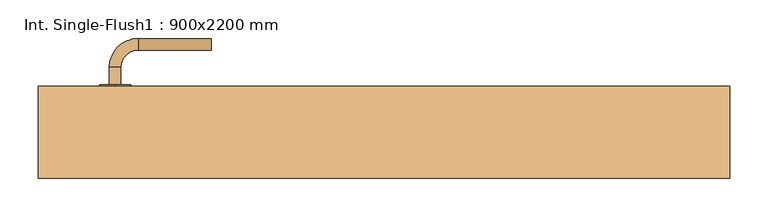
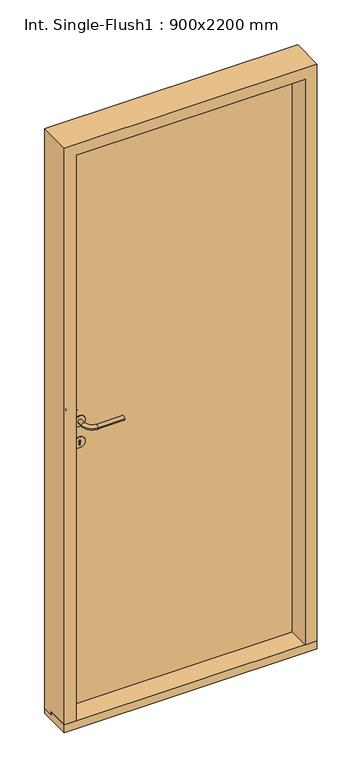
"""IFC4 building model written with IfcOpenShell, lengths in millimetres: door geometry, Int. Single-Flush1 : 900x2200 mm."""

from ifc_helpers import new_model, si_unit, point, frame, frame_2d, origin, place, context, project, spatial, polyline, circle_curve, ellipse_curve, trimmed, segment, composite_curve, outline, extrude, faceted_brep, source, transform, mapped, element, save
from ifc_brep_helpers import plane_surface, cylinder_surface, revolved_surface, advanced_brep


def int_single_flush1_900x2200_mm_083ae047(model_context):
    return source(origin(), model_context, "Body", "SolidModel", [
        extrude(outline(composite_curve([segment(trimmed(circle_curve(frame_2d((1090.0, -350.0)), 20.0), [point((1070.0, -350.0))], [point((1110.0, -350.0))], False, "CARTESIAN"), True, "CONTINUOUS"), segment(trimmed(circle_curve(frame_2d((1090.0, -350.0)), 20.0), [point((1110.0, -350.0))], [point((1070.0, -350.0))], False, "CARTESIAN"), True, "CONTINUOUS")], self_intersect=False)), frame((0.0, 60.0, 0.0), z_axis=(0.0, 1.0, 0.0), x_axis=(0.0, 0.0, 1.0)), (0.0, 0.0, 1.0), 2.0),
        advanced_brep(
        [(-357.5, 62.0, 1090.0), (-342.5, 62.0, 1090.0), (-357.5, 84.5, 1090.0), (-342.5, 84.5, 1090.0), (-320.0, 107.0, 1090.0), (-320.0, 122.0, 1090.0), (-225.0, 122.0, 1090.0), (-225.0, 107.0, 1090.0)],
        [
            (0, 1, circle_curve(frame((-350.0, 62.0, 1090.0), z_axis=(0.0, -1.0, 0.0), x_axis=(1.0, 0.0, 0.0)), 7.5)),
            (1, 0, circle_curve(frame((-350.0, 62.0, 1090.0), z_axis=(0.0, -1.0, 0.0), x_axis=(1.0, 0.0, 0.0)), 7.5)),
            (0, 2),
            (2, 3, circle_curve(frame((-350.0, 84.5, 1090.0), z_axis=(0.0, -1.0, 0.0), x_axis=(1.0, 0.0, 0.0)), 7.5)),
            (3, 1),
            (3, 2, circle_curve(frame((-350.0, 84.5, 1090.0), z_axis=(0.0, -1.0, 0.0), x_axis=(1.0, 0.0, 0.0)), 7.5)),
            (4, 3, circle_curve(frame((-320.0, 84.5, 1090.0), z_axis=(0.0, 0.0, 1.0), x_axis=(-1.0, 0.0, 0.0)), 22.5)),
            (2, 5, circle_curve(frame((-320.0, 84.5, 1090.0), z_axis=(0.0, 0.0, -1.0), x_axis=(-1.0, 0.0, 0.0)), 37.5)),
            (5, 4, circle_curve(frame((-320.0, 114.5, 1090.0), z_axis=(-1.0, 0.0, 0.0), x_axis=(0.0, -1.0, 0.0)), 7.5)),
            (4, 5, circle_curve(frame((-320.0, 114.5, 1090.0), z_axis=(-1.0, 0.0, 0.0), x_axis=(0.0, -1.0, 0.0)), 7.5)),
            (5, 6),
            (6, 7, circle_curve(frame((-225.0, 114.5, 1090.0), z_axis=(-1.0, 0.0, 0.0), x_axis=(0.0, -1.0, 0.0)), 7.5)),
            (7, 4),
            (7, 6, circle_curve(frame((-225.0, 114.5, 1090.0), z_axis=(-1.0, 0.0, 0.0), x_axis=(0.0, -1.0, 0.0)), 7.5)),
        ],
        [
            plane_surface(frame((-350.0, 62.0, 1090.0), z_axis=(0.0, -1.0, 0.0), x_axis=(0.0, 0.0, -1.0))),
            cylinder_surface(frame((-350.0, 62.0, 1090.0), z_axis=(0.0, -1.0, 0.0), x_axis=(1.0, 0.0, 0.0)), 7.5),
            revolved_surface(trimmed(ellipse_curve(frame((-350.0, 84.5, 1090.0), z_axis=(0.0, -1.0, 0.0), x_axis=(1.0, 0.0, 0.0)), 7.5, 7.5), [point((-357.5, 84.5, 1090.0))], [point((-342.5, 84.5, 1090.0))], True, "CARTESIAN"), (-320.0, 84.5, 1090.0), (0.0, 0.0, -1.0)),
            revolved_surface(trimmed(ellipse_curve(frame((-350.0, 84.5, 1090.0), z_axis=(0.0, -1.0, 0.0), x_axis=(1.0, 0.0, 0.0)), 7.5, 7.5), [point((-342.5, 84.5, 1090.0))], [point((-357.5, 84.5, 1090.0))], True, "CARTESIAN"), (-320.0, 84.5, 1090.0), (0.0, 0.0, -1.0)),
            cylinder_surface(frame((-320.0, 114.5, 1090.0), z_axis=(-1.0, 0.0, 0.0), x_axis=(0.0, -1.0, 0.0)), 7.5),
            plane_surface(frame((-225.0, 114.5, 1090.0), z_axis=(1.0, 0.0, 0.0), x_axis=(0.0, 0.0, -1.0))),
        ],
        [
            (0, [[1, 2]]),
            (1, [[-1, 3, 4, 5]]),
            (1, [[-2, -5, 6, -3]]),
            (2, [[7, -4, 8, 9]]),
            (3, [[-8, -6, -7, 10]]),
            (4, [[-9, 11, 12, 13]]),
            (4, [[-10, -13, 14, -11]]),
            (5, [[-14, -12]]),
        ],
    ),
        extrude(outline(composite_curve([segment(trimmed(circle_curve(frame_2d((1010.0, -350.0)), 20.0), [point((990.0, -350.0))], [point((1030.0, -350.0))], False, "CARTESIAN"), True, "CONTINUOUS"), segment(trimmed(circle_curve(frame_2d((1010.0, -350.0)), 20.0), [point((1030.0, -350.0))], [point((990.0, -350.0))], False, "CARTESIAN"), True, "CONTINUOUS")], self_intersect=False), holes=[composite_curve([segment(trimmed(circle_curve(frame_2d((1015.0, -350.0)), 3.0), [point((1012.4019238, -351.5))], [point((1012.4019238, -348.5))], True, "CARTESIAN"), True, "CONTINUOUS"), segment(polyline([(1012.4019238, -348.5), (1000.0, -348.5), (1000.0, -351.5), (1012.4019238, -351.5)]), True, "CONTINUOUS")], self_intersect=False)]), frame((0.0, 60.0, 0.0), z_axis=(0.0, 1.0, 0.0), x_axis=(0.0, 0.0, 1.0)), (0.0, 0.0, 1.0), 2.0),
        extrude(outline(composite_curve([segment(trimmed(circle_curve(frame_2d((1090.0, -350.0)), 20.0), [point((1070.0, -350.0))], [point((1110.0, -350.0))], False, "CARTESIAN"), True, "CONTINUOUS"), segment(trimmed(circle_curve(frame_2d((1090.0, -350.0)), 20.0), [point((1110.0, -350.0))], [point((1070.0, -350.0))], False, "CARTESIAN"), True, "CONTINUOUS")], self_intersect=False)), frame((0.0, 18.0, 0.0), z_axis=(0.0, 1.0, 0.0), x_axis=(0.0, 0.0, 1.0)), (0.0, 0.0, 1.0), 2.0),
        advanced_brep(
        [(-357.5, 18.0, 1090.0), (-342.5, 18.0, 1090.0), (-342.5, -4.5, 1090.0), (-357.5, -4.5, 1090.0), (-320.0, -27.0, 1090.0), (-320.0, -42.0, 1090.0), (-225.0, -27.0, 1090.0), (-225.0, -42.0, 1090.0)],
        [
            (0, 1, circle_curve(frame((-350.0, 18.0, 1090.0), z_axis=(0.0, 1.0, 0.0), x_axis=(1.0, 0.0, 0.0)), 7.5)),
            (1, 0, circle_curve(frame((-350.0, 18.0, 1090.0), z_axis=(0.0, 1.0, 0.0), x_axis=(1.0, 0.0, 0.0)), 7.5)),
            (1, 2),
            (2, 3, circle_curve(frame((-350.0, -4.5, 1090.0), z_axis=(0.0, 1.0, 0.0), x_axis=(1.0, 0.0, 0.0)), 7.5)),
            (3, 0),
            (3, 2, circle_curve(frame((-350.0, -4.5, 1090.0), z_axis=(0.0, 1.0, 0.0), x_axis=(1.0, 0.0, 0.0)), 7.5)),
            (4, 5, circle_curve(frame((-320.0, -34.5, 1090.0), z_axis=(-1.0, 0.0, 0.0), x_axis=(0.0, 1.0, 0.0)), 7.5)),
            (5, 3, circle_curve(frame((-320.0, -4.5, 1090.0), z_axis=(0.0, 0.0, -1.0), x_axis=(-1.0, 0.0, 0.0)), 37.5)),
            (2, 4, circle_curve(frame((-320.0, -4.5, 1090.0), z_axis=(0.0, 0.0, 1.0), x_axis=(-1.0, 0.0, 0.0)), 22.5)),
            (5, 4, circle_curve(frame((-320.0, -34.5, 1090.0), z_axis=(-1.0, 0.0, 0.0), x_axis=(0.0, 1.0, 0.0)), 7.5)),
            (4, 6),
            (6, 7, circle_curve(frame((-225.0, -34.5, 1090.0), z_axis=(-1.0, 0.0, 0.0), x_axis=(0.0, 1.0, 0.0)), 7.5)),
            (7, 5),
            (7, 6, circle_curve(frame((-225.0, -34.5, 1090.0), z_axis=(-1.0, 0.0, 0.0), x_axis=(0.0, 1.0, 0.0)), 7.5)),
        ],
        [
            plane_surface(frame((-350.0, 18.0, 1090.0), z_axis=(0.0, 1.0, 0.0), x_axis=(0.0, 0.0, -1.0))),
            cylinder_surface(frame((-350.0, 18.0, 1090.0), z_axis=(0.0, 1.0, 0.0), x_axis=(1.0, 0.0, 0.0)), 7.5),
            revolved_surface(trimmed(ellipse_curve(frame((-350.0, -4.5, 1090.0), z_axis=(0.0, -1.0, 0.0), x_axis=(1.0, 0.0, 0.0)), 7.5, 7.5), [point((-357.5, -4.5, 1090.0))], [point((-342.5, -4.5, 1090.0))], True, "CARTESIAN"), (-320.0, -4.5, 1090.0), (0.0, 0.0, -1.0)),
            revolved_surface(trimmed(ellipse_curve(frame((-350.0, -4.5, 1090.0), z_axis=(0.0, -1.0, 0.0), x_axis=(1.0, 0.0, 0.0)), 7.5, 7.5), [point((-342.5, -4.5, 1090.0))], [point((-357.5, -4.5, 1090.0))], True, "CARTESIAN"), (-320.0, -4.5, 1090.0), (0.0, 0.0, -1.0)),
            cylinder_surface(frame((-320.0, -34.5, 1090.0), z_axis=(-1.0, 0.0, 0.0), x_axis=(0.0, 1.0, 0.0)), 7.5),
            plane_surface(frame((-225.0, -34.5, 1090.0), z_axis=(1.0, 0.0, 0.0), x_axis=(0.0, 0.0, -1.0))),
        ],
        [
            (0, [[1, 2]]),
            (1, [[3, 4, 5, -2]]),
            (1, [[-5, 6, -3, -1]]),
            (2, [[7, 8, -4, 9]]),
            (3, [[10, -9, -6, -8]]),
            (4, [[11, 12, 13, -7]]),
            (4, [[-13, 14, -11, -10]]),
            (5, [[-12, -14]]),
        ],
    ),
        extrude(outline(composite_curve([segment(trimmed(circle_curve(frame_2d((1010.0, -350.0)), 20.0), [point((990.0, -350.0))], [point((1030.0, -350.0))], False, "CARTESIAN"), True, "CONTINUOUS"), segment(trimmed(circle_curve(frame_2d((1010.0, -350.0)), 20.0), [point((1030.0, -350.0))], [point((990.0, -350.0))], False, "CARTESIAN"), True, "CONTINUOUS")], self_intersect=False), holes=[composite_curve([segment(trimmed(circle_curve(frame_2d((1015.0, -350.0)), 3.0), [point((1012.4019238, -351.5))], [point((1012.4019238, -348.5))], True, "CARTESIAN"), True, "CONTINUOUS"), segment(polyline([(1012.4019238, -348.5), (1000.0, -348.5), (1000.0, -351.5), (1012.4019238, -351.5)]), True, "CONTINUOUS")], self_intersect=False)]), frame((0.0, 18.0, 0.0), z_axis=(0.0, 1.0, 0.0), x_axis=(0.0, 0.0, 1.0)), (0.0, 0.0, 1.0), 2.0),
        extrude(outline(polyline([(420.0, 20.0), (-420.0, 20.0), (-420.0, 60.0), (420.0, 60.0), (420.0, 20.0)])), frame((0.0, 0.0, 18.0), z_axis=(0.0, 0.0, 1.0), x_axis=(1.0, 0.0, 0.0)), (0.0, 0.0, 1.0), 2152.0),
        faceted_brep([(-420.0, 20.0, 2170.0), (420.0, 20.0, 2170.0), (420.0, 20.0, 30.0), (408.0, 20.0, 30.0), (408.0, 20.0, 2158.0), (-408.0, 20.0, 2158.0), (-408.0, 20.0, 30.0), (-420.0, 20.0, 30.0), (-420.0, 60.0, 2170.0), (-420.0, 20.0, 18.0), (-420.0, 60.0, 18.0), (-450.0, 20.0, 30.0), (-450.0, 20.0, 18.0), (450.0, 20.0, 30.0), (420.0, 20.0, 18.0), (450.0, 20.0, 18.0), (-450.0, 60.0, 18.0), (420.0, 60.0, 18.0), (450.0, 60.0, 18.0), (-450.0, 60.0, 2200.0), (450.0, 60.0, 2200.0), (420.0, 60.0, 2170.0), (-408.0, -60.0, 30.0), (-450.0, -60.0, 30.0), (450.0, -60.0, 30.0), (408.0, -60.0, 30.0), (408.0, -60.0, 2158.0), (-408.0, -60.0, 2158.0), (450.0, -60.0, 2200.0), (-450.0, -60.0, 2200.0)], [[[0, 1, 2, 3, 4, 5, 6, 7]], [[8, 0, 7, 9, 10]], [[7, 11, 12, 9]], [[13, 2, 14, 15]], [[9, 12, 16, 10]], [[15, 14, 17, 18]], [[19, 20, 18, 17, 21, 8, 10, 16]], [[1, 21, 17, 14, 2]], [[11, 7, 6, 22, 23]], [[2, 13, 24, 25, 3]], [[26, 4, 3, 25]], [[5, 27, 22, 6]], [[27, 26, 25, 24, 28, 29, 23, 22]], [[20, 28, 24, 13, 15, 18]], [[29, 19, 16, 12, 11, 23]], [[0, 8, 21, 1]], [[5, 4, 26, 27]], [[29, 28, 20, 19]]]),
        extrude(outline(polyline([(20.0, 30.0), (20.0, 18.0), (60.0, 18.0), (60.0, 0.0), (-60.0, 0.0), (-60.0, 30.0), (20.0, 30.0)])), frame((-450.0, 0.0, 0.0), z_axis=(1.0, 0.0, 0.0), x_axis=(0.0, 1.0, 0.0)), (0.0, 0.0, 1.0), 900.0),
    ])


if __name__ == "__main__":
    model = new_model("IFC4")
    model_context = context("Model", 3, world=origin())
    ifc_project = project(units=[si_unit("LENGTHUNIT", "METRE", prefix="MILLI")], contexts=[model_context])
    site = spatial("IfcSite", under=ifc_project)
    building = spatial("IfcBuilding", under=site)
    placement = place(None, origin())
    int_single_flush1_900x2200_mm_shape = int_single_flush1_900x2200_mm_083ae047(model_context)
    element("IfcDoor", 1, ObjectType="Int. Single-Flush1 : 900x2200 mm", at=placement, inside=building, context=model_context, shape_type="MappedRepresentation", body=[
        mapped(int_single_flush1_900x2200_mm_shape, transform((0.0, 0.0, 0.0), x_axis=(1.0, 0.0, 0.0), y_axis=(0.0, 1.0, 0.0), z_axis=(0.0, 0.0, 1.0))),
    ])
    save(model, "model.ifc")
